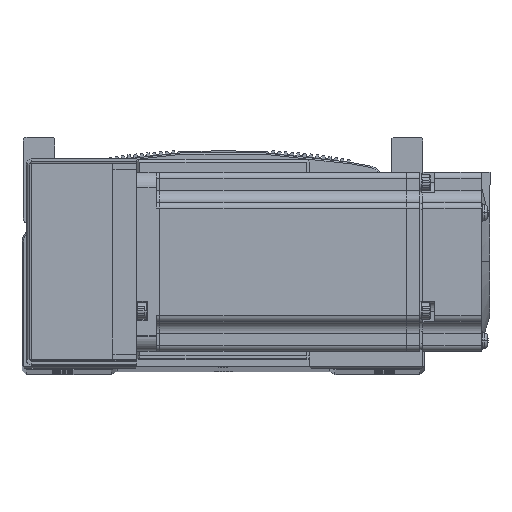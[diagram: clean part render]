
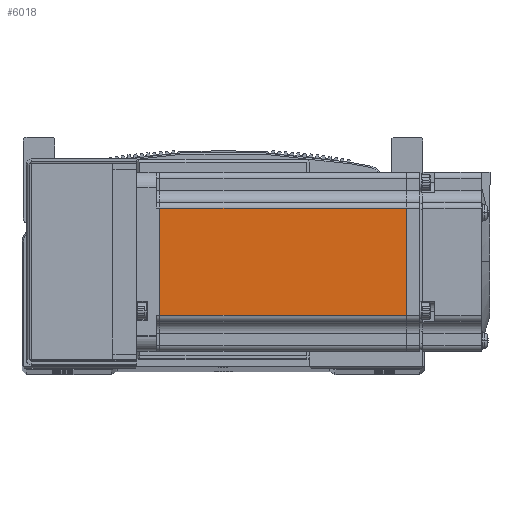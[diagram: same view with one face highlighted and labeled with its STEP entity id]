
A CAD part, top view. The second image highlights one B-rep face of the part: STEP entity #6018.
In plain terms, the highlighted planar face has unit normal (0, 0, 1) as drawn and (0, 0, -1) by its records, which use the part's own axes.
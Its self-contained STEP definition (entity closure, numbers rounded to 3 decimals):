
#6018 = ADVANCED_FACE ( 'NONE', ( #38570 ), #82547, .T. ) ;
#8394 = CARTESIAN_POINT ( 'NONE',  ( -90.45, 25., -30. ) ) ;
#8396 = DIRECTION ( 'NONE',  ( 0., 1., 0. ) ) ;
#8466 = VECTOR ( 'NONE', #8577, 1000. ) ;
#8476 = LINE ( 'NONE', #8564, #8466 ) ;
#8483 = CARTESIAN_POINT ( 'NONE',  ( -7.75, 25., -30. ) ) ;
#8490 = LINE ( 'NONE', #8483, #8518 ) ;
#8491 = DIRECTION ( 'NONE',  ( 0., -1., 0. ) ) ;
#8499 = LINE ( 'NONE', #8912, #8504 ) ;
#8504 = VECTOR ( 'NONE', #8906, 1000. ) ;
#8518 = VECTOR ( 'NONE', #8491, 1000. ) ;
#8564 = CARTESIAN_POINT ( 'NONE',  ( -6.5, 18., -30. ) ) ;
#8577 = DIRECTION ( 'NONE',  ( 1., 0., 0. ) ) ;
#8906 = DIRECTION ( 'NONE',  ( -1., 0., 0. ) ) ;
#8912 = CARTESIAN_POINT ( 'NONE',  ( -6.5, -18., -30. ) ) ;
#9712 = LINE ( 'NONE', #8394, #9741 ) ;
#9741 = VECTOR ( 'NONE', #8396, 1000. ) ;
#33052 = AXIS2_PLACEMENT_3D ( 'NONE', #82548, #82561, #82569 ) ;
#38570 = FACE_OUTER_BOUND ( 'NONE', #68997, .T. ) ;
#50021 = VERTEX_POINT ( 'NONE', #71283 ) ;
#50025 = VERTEX_POINT ( 'NONE', #71258 ) ;
#50066 = VERTEX_POINT ( 'NONE', #70812 ) ;
#50070 = VERTEX_POINT ( 'NONE', #70815 ) ;
#50983 = ORIENTED_EDGE ( 'NONE', *, *, #73610, .T. ) ;
#51123 = ORIENTED_EDGE ( 'NONE', *, *, #73653, .T. ) ;
#51280 = ORIENTED_EDGE ( 'NONE', *, *, #73616, .T. ) ;
#51286 = ORIENTED_EDGE ( 'NONE', *, *, #73587, .T. ) ;
#68997 = EDGE_LOOP ( 'NONE', ( #50983, #51123, #51286, #51280 ) ) ;
#70812 = CARTESIAN_POINT ( 'NONE',  ( -7.75, 18., -30. ) ) ;
#70815 = CARTESIAN_POINT ( 'NONE',  ( -90.45, 18., -30. ) ) ;
#71258 = CARTESIAN_POINT ( 'NONE',  ( -7.75, -18., -30. ) ) ;
#71283 = CARTESIAN_POINT ( 'NONE',  ( -90.45, -18., -30. ) ) ;
#73587 = EDGE_CURVE ( 'NONE', #50021, #50070, #9712, .T. ) ;
#73610 = EDGE_CURVE ( 'NONE', #50066, #50025, #8490, .T. ) ;
#73616 = EDGE_CURVE ( 'NONE', #50070, #50066, #8476, .T. ) ;
#73653 = EDGE_CURVE ( 'NONE', #50025, #50021, #8499, .T. ) ;
#82547 = PLANE ( 'NONE',  #33052 ) ;
#82548 = CARTESIAN_POINT ( 'NONE',  ( -6.5, 25., -30. ) ) ;
#82561 = DIRECTION ( 'NONE',  ( 0., 0., -1. ) ) ;
#82569 = DIRECTION ( 'NONE',  ( -1., 0., 0. ) ) ;
